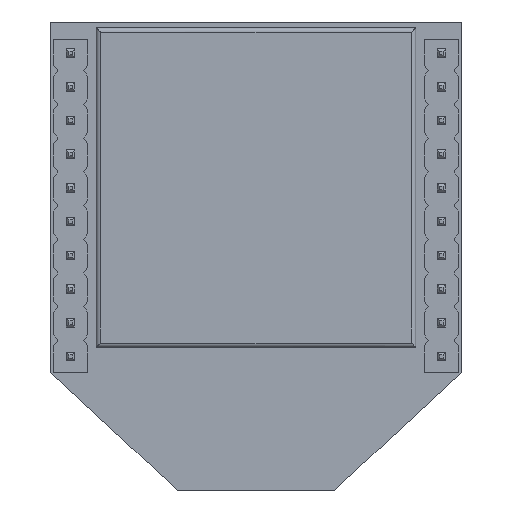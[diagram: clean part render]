
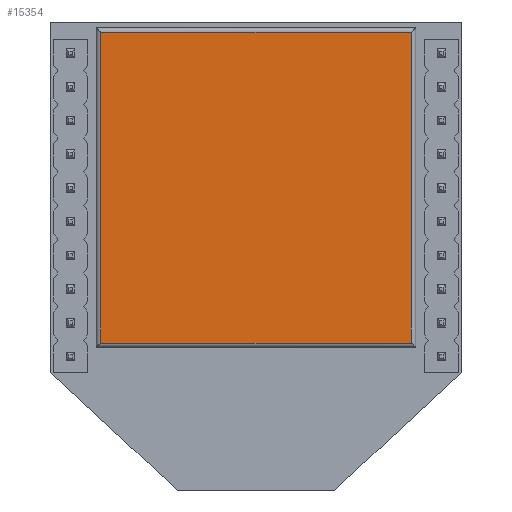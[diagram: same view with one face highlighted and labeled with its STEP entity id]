
A CAD part, front view. The second image highlights one B-rep face of the part: STEP entity #15354.
In plain terms, the highlighted planar face has unit normal (0, -1, 0).
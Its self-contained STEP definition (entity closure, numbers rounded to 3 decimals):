
#2144 = LINE ( 'NONE', #15830, #30191 ) ;
#3883 = FACE_OUTER_BOUND ( 'NONE', #18608, .T. ) ;
#7530 = VERTEX_POINT ( 'NONE', #61039 ) ;
#8394 = CARTESIAN_POINT ( 'NONE',  ( 9.225, 0., 0. ) ) ;
#9004 = CARTESIAN_POINT ( 'NONE',  ( 0., 0., 0. ) ) ;
#9650 = VERTEX_POINT ( 'NONE', #53430 ) ;
#14338 = DIRECTION ( 'NONE',  ( 0., 0., 1. ) ) ;
#15354 = ADVANCED_FACE ( 'NONE', ( #3883 ), #29739, .F. ) ;
#15830 = CARTESIAN_POINT ( 'NONE',  ( -9.225, 0., 0. ) ) ;
#17912 = EDGE_CURVE ( 'NONE', #63912, #9650, #31273, .T. ) ;
#18608 = EDGE_LOOP ( 'NONE', ( #21702, #39980, #59946, #63536 ) ) ;
#21702 = ORIENTED_EDGE ( 'NONE', *, *, #48022, .T. ) ;
#21704 = CARTESIAN_POINT ( 'NONE',  ( 0., 0., -7.75 ) ) ;
#25571 = VERTEX_POINT ( 'NONE', #54309 ) ;
#25923 = CARTESIAN_POINT ( 'NONE',  ( 0., 0., 10.7 ) ) ;
#29739 = PLANE ( 'NONE',  #46454 ) ;
#30191 = VECTOR ( 'NONE', #52624, 1000. ) ;
#31273 = LINE ( 'NONE', #21704, #43605 ) ;
#31302 = LINE ( 'NONE', #25923, #45274 ) ;
#31790 = VECTOR ( 'NONE', #39954, 1000. ) ;
#32323 = DIRECTION ( 'NONE',  ( 1., 0., 0. ) ) ;
#37018 = CARTESIAN_POINT ( 'NONE',  ( -9.225, 0., -7.75 ) ) ;
#39954 = DIRECTION ( 'NONE',  ( 0., 0., 1. ) ) ;
#39980 = ORIENTED_EDGE ( 'NONE', *, *, #53821, .T. ) ;
#43605 = VECTOR ( 'NONE', #32323, 1000. ) ;
#45274 = VECTOR ( 'NONE', #57427, 1000. ) ;
#45863 = DIRECTION ( 'NONE',  ( 0., 1., 0. ) ) ;
#46454 = AXIS2_PLACEMENT_3D ( 'NONE', #9004, #45863, #14338 ) ;
#48022 = EDGE_CURVE ( 'NONE', #9650, #7530, #50719, .T. ) ;
#50719 = LINE ( 'NONE', #8394, #31790 ) ;
#52624 = DIRECTION ( 'NONE',  ( 0., 0., -1. ) ) ;
#53430 = CARTESIAN_POINT ( 'NONE',  ( 9.225, 0., -7.75 ) ) ;
#53821 = EDGE_CURVE ( 'NONE', #7530, #25571, #31302, .T. ) ;
#54309 = CARTESIAN_POINT ( 'NONE',  ( -9.225, 0., 10.7 ) ) ;
#57427 = DIRECTION ( 'NONE',  ( -1., 0., 0. ) ) ;
#59645 = EDGE_CURVE ( 'NONE', #25571, #63912, #2144, .T. ) ;
#59946 = ORIENTED_EDGE ( 'NONE', *, *, #59645, .T. ) ;
#61039 = CARTESIAN_POINT ( 'NONE',  ( 9.225, 0., 10.7 ) ) ;
#63536 = ORIENTED_EDGE ( 'NONE', *, *, #17912, .T. ) ;
#63912 = VERTEX_POINT ( 'NONE', #37018 ) ;
